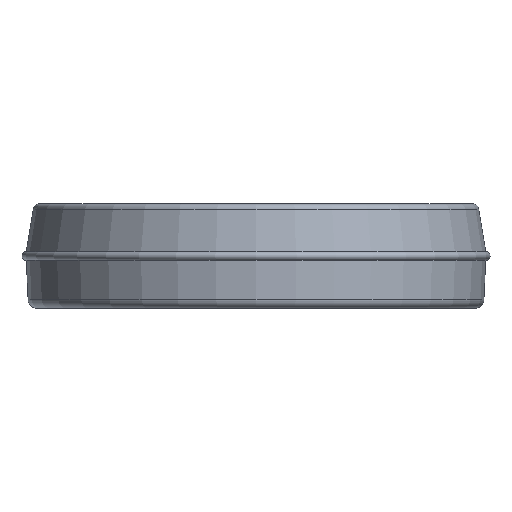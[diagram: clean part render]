
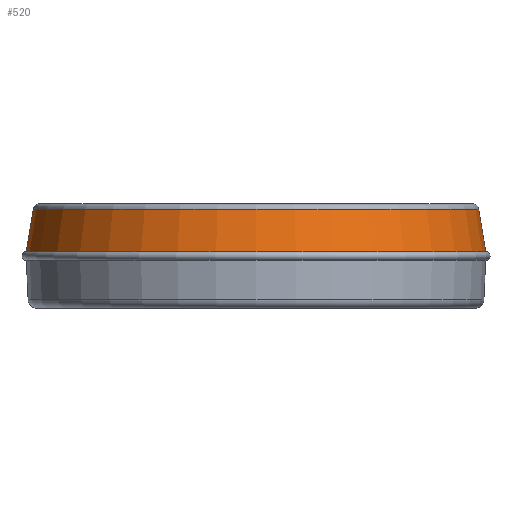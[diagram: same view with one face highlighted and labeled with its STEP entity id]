
A CAD part, front view. The second image highlights one B-rep face of the part: STEP entity #520.
In plain terms, the highlighted conical face has half-angle 9.211 degrees and reference radius 51.654 mm.
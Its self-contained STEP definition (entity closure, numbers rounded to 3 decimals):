
#26 = VECTOR ( 'NONE', #321, 1000. ) ;
#30 = DIRECTION ( 'NONE',  ( 0., 0., -1. ) ) ;
#33 = CIRCLE ( 'NONE', #438, 53.25 ) ;
#37 = ORIENTED_EDGE ( 'NONE', *, *, #685, .F. ) ;
#47 = LINE ( 'NONE', #571, #705 ) ;
#52 = ORIENTED_EDGE ( 'NONE', *, *, #229, .T. ) ;
#60 = DIRECTION ( 'NONE',  ( -0.16, 0., -0.987 ) ) ;
#65 = DIRECTION ( 'NONE',  ( 0., 0., 1. ) ) ;
#136 = VERTEX_POINT ( 'NONE', #764 ) ;
#163 = CARTESIAN_POINT ( 'NONE',  ( 51.654, 0., 0.24 ) ) ;
#164 = DIRECTION ( 'NONE',  ( 0., 0., 1. ) ) ;
#175 = DIRECTION ( 'NONE',  ( 1., 0., 0. ) ) ;
#190 = CARTESIAN_POINT ( 'NONE',  ( 0., 0., 0.24 ) ) ;
#191 = VERTEX_POINT ( 'NONE', #696 ) ;
#222 = CARTESIAN_POINT ( 'NONE',  ( 0., 0., 0.24 ) ) ;
#229 = EDGE_CURVE ( 'NONE', #136, #191, #47, .T. ) ;
#241 = DIRECTION ( 'NONE',  ( 1., 0., 0. ) ) ;
#321 = DIRECTION ( 'NONE',  ( 0.16, 0., -0.987 ) ) ;
#344 = FACE_OUTER_BOUND ( 'NONE', #736, .T. ) ;
#425 = DIRECTION ( 'NONE',  ( -1., 0., 0. ) ) ;
#438 = AXIS2_PLACEMENT_3D ( 'NONE', #545, #164, #241 ) ;
#450 = CARTESIAN_POINT ( 'NONE',  ( 53.25, 0., -9.6 ) ) ;
#467 = AXIS2_PLACEMENT_3D ( 'NONE', #222, #30, #425 ) ;
#520 = ADVANCED_FACE ( 'NONE', ( #344 ), #692, .T. ) ;
#529 = CARTESIAN_POINT ( 'NONE',  ( 51.654, 0., 0.24 ) ) ;
#532 = AXIS2_PLACEMENT_3D ( 'NONE', #190, #65, #175 ) ;
#536 = EDGE_CURVE ( 'NONE', #191, #618, #33, .T. ) ;
#545 = CARTESIAN_POINT ( 'NONE',  ( 0., 0., -9.6 ) ) ;
#568 = EDGE_CURVE ( 'NONE', #136, #807, #573, .T. ) ;
#571 = CARTESIAN_POINT ( 'NONE',  ( -51.654, 0., 0.24 ) ) ;
#573 = CIRCLE ( 'NONE', #532, 51.654 ) ;
#593 = LINE ( 'NONE', #529, #26 ) ;
#618 = VERTEX_POINT ( 'NONE', #450 ) ;
#685 = EDGE_CURVE ( 'NONE', #807, #618, #593, .T. ) ;
#692 = CONICAL_SURFACE ( 'NONE', #467, 51.654, 0.161 ) ;
#696 = CARTESIAN_POINT ( 'NONE',  ( -53.25, 0., -9.6 ) ) ;
#705 = VECTOR ( 'NONE', #60, 1000. ) ;
#736 = EDGE_LOOP ( 'NONE', ( #37, #767, #52, #762 ) ) ;
#762 = ORIENTED_EDGE ( 'NONE', *, *, #536, .T. ) ;
#764 = CARTESIAN_POINT ( 'NONE',  ( -51.654, 0., 0.24 ) ) ;
#767 = ORIENTED_EDGE ( 'NONE', *, *, #568, .F. ) ;
#807 = VERTEX_POINT ( 'NONE', #163 ) ;
